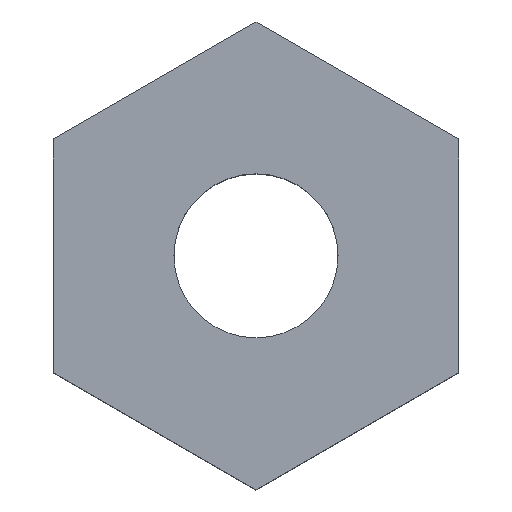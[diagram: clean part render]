
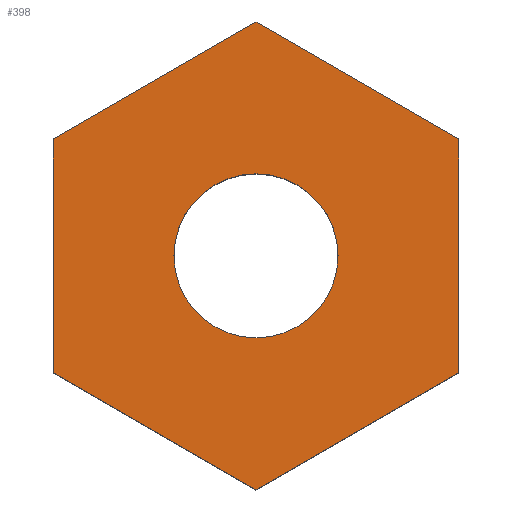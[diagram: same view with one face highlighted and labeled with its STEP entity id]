
A CAD part, top view. The second image highlights one B-rep face of the part: STEP entity #398.
In plain terms, the highlighted planar face has unit normal (0, 0, 1).
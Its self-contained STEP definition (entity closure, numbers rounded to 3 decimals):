
#24 = VERTEX_POINT('',#25);
#25 = CARTESIAN_POINT('',(0.,-20.109,-3.));
#32 = PLANE('',#33);
#33 = AXIS2_PLACEMENT_3D('',#34,#35,#36);
#34 = CARTESIAN_POINT('',(0.,-20.109,-4.6));
#35 = DIRECTION('',(-0.5,0.866,0.));
#36 = DIRECTION('',(0.866,0.5,0.));
#44 = PLANE('',#45);
#45 = AXIS2_PLACEMENT_3D('',#46,#47,#48);
#46 = CARTESIAN_POINT('',(-2.,-18.955,-4.6));
#47 = DIRECTION('',(0.5,0.866,0.));
#48 = DIRECTION('',(0.866,-0.5,0.));
#56 = EDGE_CURVE('',#24,#57,#59,.T.);
#57 = VERTEX_POINT('',#58);
#58 = CARTESIAN_POINT('',(2.,-18.955,-3.));
#59 = SURFACE_CURVE('',#60,(#64,#71),.PCURVE_S1.);
#60 = LINE('',#61,#62);
#61 = CARTESIAN_POINT('',(0.,-20.109,-3.));
#62 = VECTOR('',#63,1.);
#63 = DIRECTION('',(0.866,0.5,0.));
#64 = PCURVE('',#32,#65);
#65 = DEFINITIONAL_REPRESENTATION('',(#66),#70);
#66 = LINE('',#67,#68);
#67 = CARTESIAN_POINT('',(0.,-1.6));
#68 = VECTOR('',#69,1.);
#69 = DIRECTION('',(1.,0.));
#70 = ( GEOMETRIC_REPRESENTATION_CONTEXT(2) 
PARAMETRIC_REPRESENTATION_CONTEXT() REPRESENTATION_CONTEXT('2D SPACE',''
  ) );
#71 = PCURVE('',#72,#77);
#72 = PLANE('',#73);
#73 = AXIS2_PLACEMENT_3D('',#74,#75,#76);
#74 = CARTESIAN_POINT('',(0.,-17.8,-3.));
#75 = DIRECTION('',(0.,0.,1.));
#76 = DIRECTION('',(0.,-1.,0.));
#77 = DEFINITIONAL_REPRESENTATION('',(#78),#82);
#78 = LINE('',#79,#80);
#79 = CARTESIAN_POINT('',(2.309,0.));
#80 = VECTOR('',#81,1.);
#81 = DIRECTION('',(-0.5,0.866));
#82 = ( GEOMETRIC_REPRESENTATION_CONTEXT(2) 
PARAMETRIC_REPRESENTATION_CONTEXT() REPRESENTATION_CONTEXT('2D SPACE',''
  ) );
#100 = PLANE('',#101);
#101 = AXIS2_PLACEMENT_3D('',#102,#103,#104);
#102 = CARTESIAN_POINT('',(2.,-18.955,-4.6));
#103 = DIRECTION('',(-1.,0.,0.));
#104 = DIRECTION('',(0.,1.,0.));
#144 = VERTEX_POINT('',#145);
#145 = CARTESIAN_POINT('',(-2.,-18.955,-3.));
#159 = PLANE('',#160);
#160 = AXIS2_PLACEMENT_3D('',#161,#162,#163);
#161 = CARTESIAN_POINT('',(-2.,-16.645,-4.6));
#162 = DIRECTION('',(1.,0.,0.));
#163 = DIRECTION('',(0.,-1.,0.));
#171 = EDGE_CURVE('',#144,#24,#172,.T.);
#172 = SURFACE_CURVE('',#173,(#177,#184),.PCURVE_S1.);
#173 = LINE('',#174,#175);
#174 = CARTESIAN_POINT('',(-2.,-18.955,-3.));
#175 = VECTOR('',#176,1.);
#176 = DIRECTION('',(0.866,-0.5,0.));
#177 = PCURVE('',#44,#178);
#178 = DEFINITIONAL_REPRESENTATION('',(#179),#183);
#179 = LINE('',#180,#181);
#180 = CARTESIAN_POINT('',(0.,-1.6));
#181 = VECTOR('',#182,1.);
#182 = DIRECTION('',(1.,0.));
#183 = ( GEOMETRIC_REPRESENTATION_CONTEXT(2) 
PARAMETRIC_REPRESENTATION_CONTEXT() REPRESENTATION_CONTEXT('2D SPACE',''
  ) );
#184 = PCURVE('',#72,#185);
#185 = DEFINITIONAL_REPRESENTATION('',(#186),#190);
#186 = LINE('',#187,#188);
#187 = CARTESIAN_POINT('',(1.155,-2.));
#188 = VECTOR('',#189,1.);
#189 = DIRECTION('',(0.5,0.866));
#190 = ( GEOMETRIC_REPRESENTATION_CONTEXT(2) 
PARAMETRIC_REPRESENTATION_CONTEXT() REPRESENTATION_CONTEXT('2D SPACE',''
  ) );
#218 = EDGE_CURVE('',#57,#219,#221,.T.);
#219 = VERTEX_POINT('',#220);
#220 = CARTESIAN_POINT('',(2.,-16.645,-3.));
#221 = SURFACE_CURVE('',#222,(#226,#233),.PCURVE_S1.);
#222 = LINE('',#223,#224);
#223 = CARTESIAN_POINT('',(2.,-18.955,-3.));
#224 = VECTOR('',#225,1.);
#225 = DIRECTION('',(0.,1.,0.));
#226 = PCURVE('',#100,#227);
#227 = DEFINITIONAL_REPRESENTATION('',(#228),#232);
#228 = LINE('',#229,#230);
#229 = CARTESIAN_POINT('',(0.,-1.6));
#230 = VECTOR('',#231,1.);
#231 = DIRECTION('',(1.,0.));
#232 = ( GEOMETRIC_REPRESENTATION_CONTEXT(2) 
PARAMETRIC_REPRESENTATION_CONTEXT() REPRESENTATION_CONTEXT('2D SPACE',''
  ) );
#233 = PCURVE('',#72,#234);
#234 = DEFINITIONAL_REPRESENTATION('',(#235),#239);
#235 = LINE('',#236,#237);
#236 = CARTESIAN_POINT('',(1.155,2.));
#237 = VECTOR('',#238,1.);
#238 = DIRECTION('',(-1.,0.));
#239 = ( GEOMETRIC_REPRESENTATION_CONTEXT(2) 
PARAMETRIC_REPRESENTATION_CONTEXT() REPRESENTATION_CONTEXT('2D SPACE',''
  ) );
#257 = PLANE('',#258);
#258 = AXIS2_PLACEMENT_3D('',#259,#260,#261);
#259 = CARTESIAN_POINT('',(2.,-16.645,-4.6));
#260 = DIRECTION('',(-0.5,-0.866,0.));
#261 = DIRECTION('',(-0.866,0.5,0.));
#334 = PLANE('',#335);
#335 = AXIS2_PLACEMENT_3D('',#336,#337,#338);
#336 = CARTESIAN_POINT('',(0.,-15.491,-4.6));
#337 = DIRECTION('',(0.5,-0.866,0.));
#338 = DIRECTION('',(-0.866,-0.5,0.));
#387 = CYLINDRICAL_SURFACE('',#388,0.81);
#388 = AXIS2_PLACEMENT_3D('',#389,#390,#391);
#389 = CARTESIAN_POINT('',(0.,-17.8,-4.7));
#390 = DIRECTION('',(0.,0.,1.));
#391 = DIRECTION('',(0.,-1.,0.));
#398 = ADVANCED_FACE('',(#399,#471),#72,.T.);
#399 = FACE_BOUND('',#400,.T.);
#400 = EDGE_LOOP('',(#401,#402,#403,#426,#449,#470));
#401 = ORIENTED_EDGE('',*,*,#56,.T.);
#402 = ORIENTED_EDGE('',*,*,#218,.T.);
#403 = ORIENTED_EDGE('',*,*,#404,.T.);
#404 = EDGE_CURVE('',#219,#405,#407,.T.);
#405 = VERTEX_POINT('',#406);
#406 = CARTESIAN_POINT('',(0.,-15.491,-3.));
#407 = SURFACE_CURVE('',#408,(#412,#419),.PCURVE_S1.);
#408 = LINE('',#409,#410);
#409 = CARTESIAN_POINT('',(2.,-16.645,-3.));
#410 = VECTOR('',#411,1.);
#411 = DIRECTION('',(-0.866,0.5,0.));
#412 = PCURVE('',#72,#413);
#413 = DEFINITIONAL_REPRESENTATION('',(#414),#418);
#414 = LINE('',#415,#416);
#415 = CARTESIAN_POINT('',(-1.155,2.));
#416 = VECTOR('',#417,1.);
#417 = DIRECTION('',(-0.5,-0.866));
#418 = ( GEOMETRIC_REPRESENTATION_CONTEXT(2) 
PARAMETRIC_REPRESENTATION_CONTEXT() REPRESENTATION_CONTEXT('2D SPACE',''
  ) );
#419 = PCURVE('',#257,#420);
#420 = DEFINITIONAL_REPRESENTATION('',(#421),#425);
#421 = LINE('',#422,#423);
#422 = CARTESIAN_POINT('',(0.,-1.6));
#423 = VECTOR('',#424,1.);
#424 = DIRECTION('',(1.,0.));
#425 = ( GEOMETRIC_REPRESENTATION_CONTEXT(2) 
PARAMETRIC_REPRESENTATION_CONTEXT() REPRESENTATION_CONTEXT('2D SPACE',''
  ) );
#426 = ORIENTED_EDGE('',*,*,#427,.T.);
#427 = EDGE_CURVE('',#405,#428,#430,.T.);
#428 = VERTEX_POINT('',#429);
#429 = CARTESIAN_POINT('',(-2.,-16.645,-3.));
#430 = SURFACE_CURVE('',#431,(#435,#442),.PCURVE_S1.);
#431 = LINE('',#432,#433);
#432 = CARTESIAN_POINT('',(0.,-15.491,-3.));
#433 = VECTOR('',#434,1.);
#434 = DIRECTION('',(-0.866,-0.5,0.));
#435 = PCURVE('',#72,#436);
#436 = DEFINITIONAL_REPRESENTATION('',(#437),#441);
#437 = LINE('',#438,#439);
#438 = CARTESIAN_POINT('',(-2.309,0.));
#439 = VECTOR('',#440,1.);
#440 = DIRECTION('',(0.5,-0.866));
#441 = ( GEOMETRIC_REPRESENTATION_CONTEXT(2) 
PARAMETRIC_REPRESENTATION_CONTEXT() REPRESENTATION_CONTEXT('2D SPACE',''
  ) );
#442 = PCURVE('',#334,#443);
#443 = DEFINITIONAL_REPRESENTATION('',(#444),#448);
#444 = LINE('',#445,#446);
#445 = CARTESIAN_POINT('',(0.,-1.6));
#446 = VECTOR('',#447,1.);
#447 = DIRECTION('',(1.,0.));
#448 = ( GEOMETRIC_REPRESENTATION_CONTEXT(2) 
PARAMETRIC_REPRESENTATION_CONTEXT() REPRESENTATION_CONTEXT('2D SPACE',''
  ) );
#449 = ORIENTED_EDGE('',*,*,#450,.T.);
#450 = EDGE_CURVE('',#428,#144,#451,.T.);
#451 = SURFACE_CURVE('',#452,(#456,#463),.PCURVE_S1.);
#452 = LINE('',#453,#454);
#453 = CARTESIAN_POINT('',(-2.,-16.645,-3.));
#454 = VECTOR('',#455,1.);
#455 = DIRECTION('',(0.,-1.,0.));
#456 = PCURVE('',#72,#457);
#457 = DEFINITIONAL_REPRESENTATION('',(#458),#462);
#458 = LINE('',#459,#460);
#459 = CARTESIAN_POINT('',(-1.155,-2.));
#460 = VECTOR('',#461,1.);
#461 = DIRECTION('',(1.,0.));
#462 = ( GEOMETRIC_REPRESENTATION_CONTEXT(2) 
PARAMETRIC_REPRESENTATION_CONTEXT() REPRESENTATION_CONTEXT('2D SPACE',''
  ) );
#463 = PCURVE('',#159,#464);
#464 = DEFINITIONAL_REPRESENTATION('',(#465),#469);
#465 = LINE('',#466,#467);
#466 = CARTESIAN_POINT('',(0.,-1.6));
#467 = VECTOR('',#468,1.);
#468 = DIRECTION('',(1.,0.));
#469 = ( GEOMETRIC_REPRESENTATION_CONTEXT(2) 
PARAMETRIC_REPRESENTATION_CONTEXT() REPRESENTATION_CONTEXT('2D SPACE',''
  ) );
#470 = ORIENTED_EDGE('',*,*,#171,.T.);
#471 = FACE_BOUND('',#472,.T.);
#472 = EDGE_LOOP('',(#473));
#473 = ORIENTED_EDGE('',*,*,#474,.F.);
#474 = EDGE_CURVE('',#475,#475,#477,.T.);
#475 = VERTEX_POINT('',#476);
#476 = CARTESIAN_POINT('',(0.,-18.61,-3.));
#477 = SURFACE_CURVE('',#478,(#483,#490),.PCURVE_S1.);
#478 = CIRCLE('',#479,0.81);
#479 = AXIS2_PLACEMENT_3D('',#480,#481,#482);
#480 = CARTESIAN_POINT('',(0.,-17.8,-3.));
#481 = DIRECTION('',(0.,0.,1.));
#482 = DIRECTION('',(0.,-1.,0.));
#483 = PCURVE('',#72,#484);
#484 = DEFINITIONAL_REPRESENTATION('',(#485),#489);
#485 = CIRCLE('',#486,0.81);
#486 = AXIS2_PLACEMENT_2D('',#487,#488);
#487 = CARTESIAN_POINT('',(0.,0.));
#488 = DIRECTION('',(1.,0.));
#489 = ( GEOMETRIC_REPRESENTATION_CONTEXT(2) 
PARAMETRIC_REPRESENTATION_CONTEXT() REPRESENTATION_CONTEXT('2D SPACE',''
  ) );
#490 = PCURVE('',#387,#491);
#491 = DEFINITIONAL_REPRESENTATION('',(#492),#496);
#492 = LINE('',#493,#494);
#493 = CARTESIAN_POINT('',(0.,1.7));
#494 = VECTOR('',#495,1.);
#495 = DIRECTION('',(1.,0.));
#496 = ( GEOMETRIC_REPRESENTATION_CONTEXT(2) 
PARAMETRIC_REPRESENTATION_CONTEXT() REPRESENTATION_CONTEXT('2D SPACE',''
  ) );
